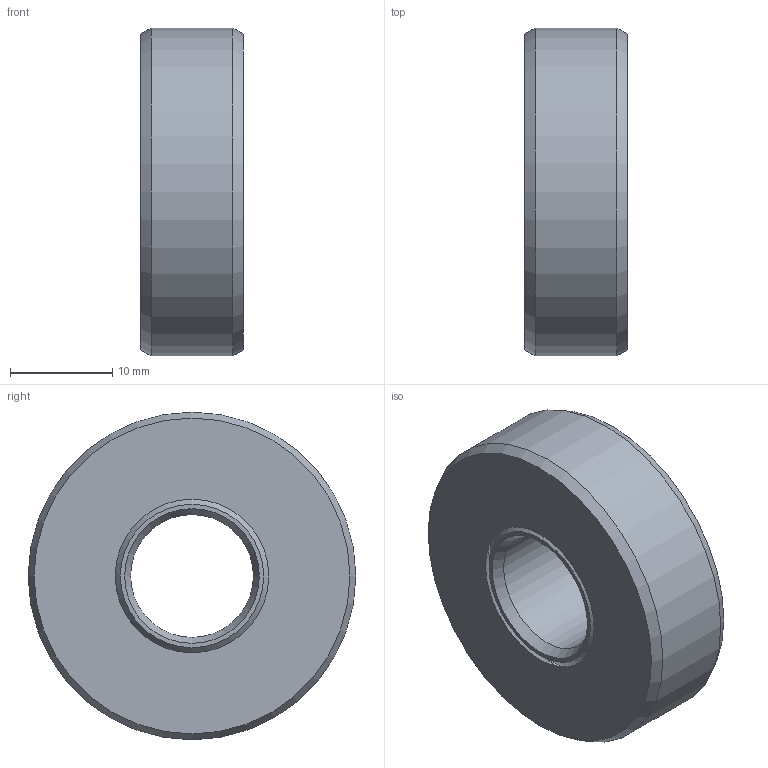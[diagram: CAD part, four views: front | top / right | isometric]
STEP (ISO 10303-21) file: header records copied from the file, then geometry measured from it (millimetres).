
FILE_DESCRIPTION(/* description */ (''),/* implementation_level */ '2;1');
FILE_NAME(/* name */ '301756 SA 12x32x10.stp',/* time_stamp */ '2016-12-16T15:51:32+01:00',/* author */ (''),/* organization */ (''),/* preprocessor_version */ 'ST-DEVELOPER v15',/* originating_system */ 'SIEMENS PLM Software NX 8.5',/* authorisation */ '');
FILE_SCHEMA (('CONFIG_CONTROL_DESIGN'));
Length unit declared in the file: millimetre
Products named in the file (1): ATE0000144_01
Bounding box: 10 x 32 x 32 mm (x, y, z)
Volume: 6464.6 mm3; surface area: 4095.6 mm2
Topology: 2 solids, 2 shells, 18 faces, 37 edges, 23 vertices
Faces by surface type: cone 10, plane 5, cylinder 3
Full cylindrical faces by diameter (mm): 12 x1, 32 x1
Entity records: 492 total; most frequent: DIRECTION 76, CARTESIAN_POINT 74, ORIENTED_EDGE 46, AXIS2_PLACEMENT_3D 38, EDGE_LOOP 33, FACE_BOUND 30, EDGE_CURVE 23, VERTEX_POINT 20
